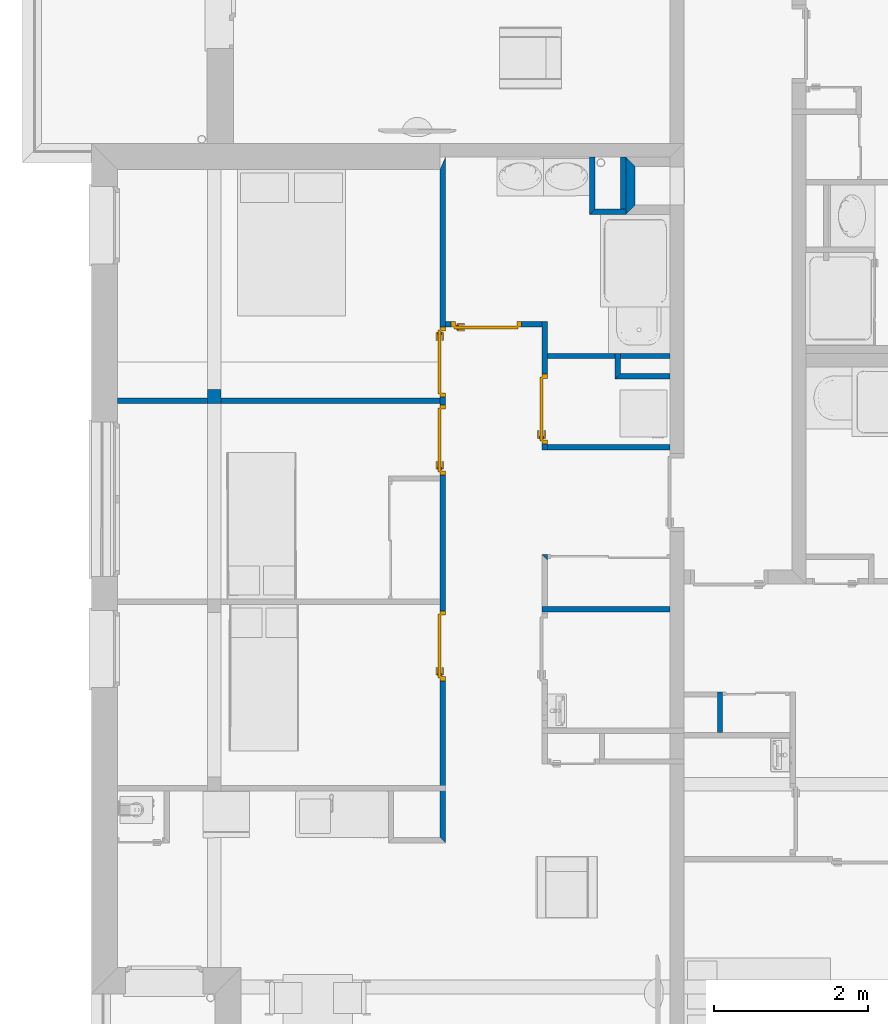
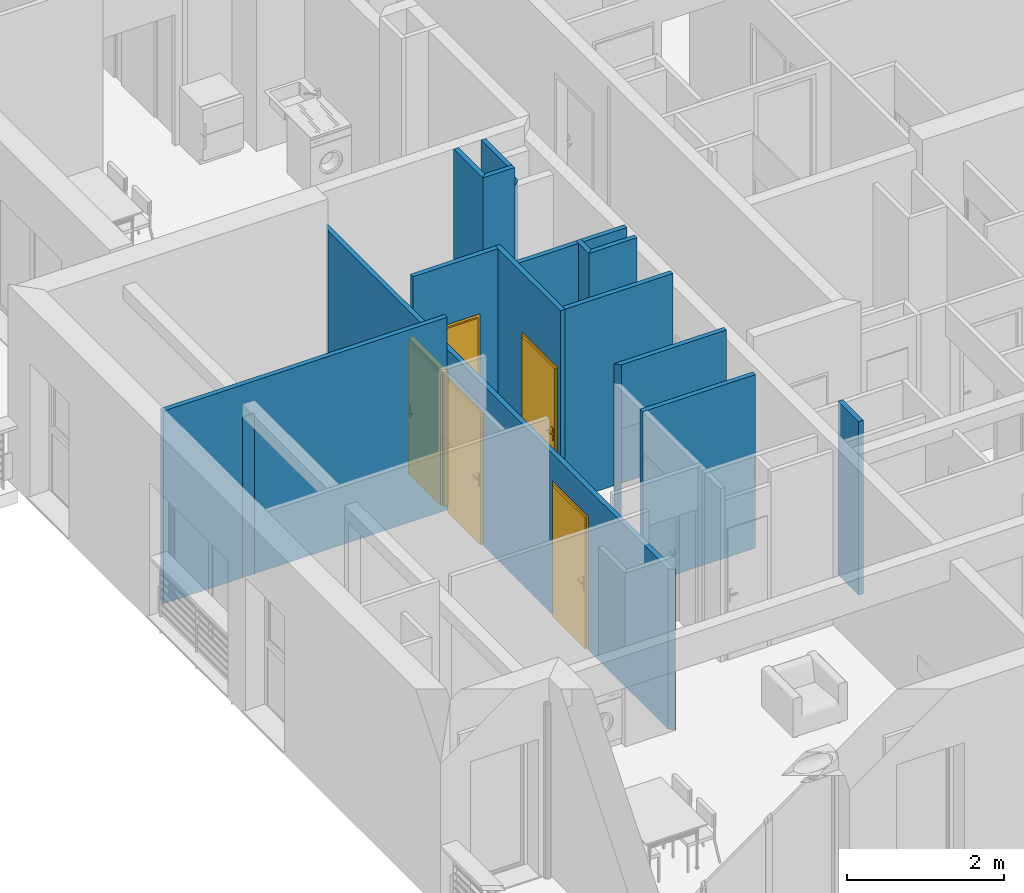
# One storey, part 12 of 165: 16 walls, 5 doors, 6 openings.
"""IFC2X3 building model written with IfcOpenShell, lengths in millimetres."""

from ifc_helpers import new_model, entity, si_unit, converted_unit, derived_unit, money_unit, direction, frame, origin_with_axes, origin_2d_with_axis, place, context, subcontext, project, spatial, polyline, rectangle, outline, extrude, faceted_brep, source, transform, mapped, material, layer, layer_set, layer_usage, type_object, element, fill, save


model = new_model("IFC2X3")

# Units and contexts
model_context = context("Model", 3, precision=0.01, world=origin_with_axes(), true_north=direction((0.0, 1.0)))
body_context = subcontext(model_context, "Body", "Model", "MODEL_VIEW")
ifc_project = project(units=[si_unit("LENGTHUNIT", "METRE", prefix="MILLI"), si_unit("AREAUNIT", "SQUARE_METRE"), si_unit("VOLUMEUNIT", "CUBIC_METRE"), converted_unit("PLANEANGLEUNIT", "DEGREE", entity("IfcPlaneAngleMeasure", 0.0174532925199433), si_unit("PLANEANGLEUNIT", "RADIAN"), dimensions=[0, 0, 0, 0, 0, 0, 0]), money_unit("USD"), converted_unit("TIMEUNIT", "Year", entity("IfcTimeMeasure", 31557600.0), si_unit("TIMEUNIT", "SECOND"), dimensions=[0, 0, 1, 0, 0, 0, 0]), si_unit("MASSUNIT", "GRAM", prefix="KILO"), si_unit("THERMODYNAMICTEMPERATUREUNIT", "DEGREE_CELSIUS"), si_unit("LUMINOUSINTENSITYUNIT", "LUMEN"), si_unit("ENERGYUNIT", "JOULE", prefix="MEGA"), derived_unit("THERMALCONDUCTANCEUNIT", [(si_unit("POWERUNIT", "WATT"), 1), (si_unit("LENGTHUNIT", "METRE"), -1), (si_unit("THERMODYNAMICTEMPERATUREUNIT", "KELVIN"), -1)]), derived_unit("SPECIFICHEATCAPACITYUNIT", [(si_unit("ENERGYUNIT", "JOULE"), 1), (si_unit("MASSUNIT", "GRAM", prefix="KILO"), -1), (si_unit("THERMODYNAMICTEMPERATUREUNIT", "KELVIN"), -1)]), derived_unit("MASSDENSITYUNIT", [(si_unit("MASSUNIT", "GRAM", prefix="KILO"), 1), (si_unit("VOLUMEUNIT", "CUBIC_METRE"), -1)])], contexts=[model_context])

# Site, building, storey
site_placement = place(None, origin_with_axes())
site = spatial("IfcSite", under=ifc_project, at=site_placement, Name="Site", CompositionType="ELEMENT")
building_placement = place(site_placement, origin_with_axes())
building = spatial("IfcBuilding", under=site, at=building_placement, Name="Bâtiment", CompositionType="ELEMENT")
storey_placement = place(building_placement, frame((0.0, 0.0, 8500.0), z_axis=(0.0, 0.0, 1.0), x_axis=(1.0, 0.0, 0.0)))
storey = spatial("IfcBuildingStorey", under=building, at=storey_placement, Name="Etage 2", CompositionType="ELEMENT", Elevation=8500.0)

# Wall, opening, door
ifc_material_1 = material(Name="Hachure solide 268963992")
ifc_layer_1 = layer(ifc_material_1, 70.0, ventilated="UNKNOWN")
ifc_layer_set_1 = layer_set([ifc_layer_1], Name="Cloison 70 0826278243")
ifc_layer_usage_1 = layer_usage(ifc_layer_set_1, "AXIS2", "NEGATIVE", 70.0)
wall_type_1 = type_object("IfcWallType", Name="Cloison 70 0826278243 70", PredefinedType="NOTDEFINED")
wall_1_placement = place(storey_placement, frame((2222472.351167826, -646327.0248240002, 0.0), z_axis=(0.0, 0.0, 1.0), x_axis=(-1.0, 0.0, 0.0)))
wall_1 = element("IfcWallStandardCase", 1, at=wall_1_placement, inside=storey, type_object=wall_type_1, material=ifc_layer_usage_1, Name="Mur-149", context=body_context, shape_type="SweptSolid", body=[
    extrude(outline(polyline([(0.0, 0.0), (1250.000009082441, 0.0), (1250.000009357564, 69.99999999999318), (0.0, 69.99999999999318), (0.0, 0.0)])), origin_with_axes(), (0.0, 0.0, 1.0), 3000.0),
])
opening_1_placement = place(wall_1_placement, frame((721.8802093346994, 0.0, 0.0), z_axis=(0.0, 0.0, 1.0), x_axis=(1.0, 0.0, 0.0)))
opening_1 = element("IfcOpeningElement", 2, at=opening_1_placement, cuts=wall_1, Name="Por-280", context=body_context, shape_type="SweptSolid", body=[
    extrude(rectangle(XDim=910.0, YDim=2080.0, at=origin_2d_with_axis()), frame((0.0, -69.99999999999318, 1039.999999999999), z_axis=(0.0, -1.0, 0.0), x_axis=(-1.0, 0.0, 0.0)), (0.0, 0.0, -1.0), 140.0),
])
door_style = type_object("IfcDoorStyle", Name="Porte_1v", ConstructionType="NOTDEFINED", OperationType="NOTDEFINED", ParameterTakesPrecedence=False, Sizeable=False)
shared_shape_1 = source(origin_with_axes(), body_context, "Body", "Brep", [
    faceted_brep([(-454.9999999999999, 0.0, 0.0), (-454.9999999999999, 0.0, 2080.0), (454.9999999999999, 0.0, 2080.0), (454.9999999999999, 0.0, 0.0), (414.9999999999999, 0.0, 0.0), (414.9999999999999, 0.0, 2040.0), (-414.9999999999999, 0.0, 2040.0), (-414.9999999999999, 0.0, 0.0), (-454.9999999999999, -69.99999999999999, 0.0), (-454.9999999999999, -69.99999999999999, 2080.0), (454.9999999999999, -69.99999999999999, 2080.0), (454.9999999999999, -69.99999999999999, 0.0), (399.9999999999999, -69.99999999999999, 0.0), (399.9999999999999, -15.0, 0.0), (414.9999999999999, -15.0, 0.0), (414.9999999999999, -15.0, 2040.0), (-414.9999999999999, -14.99999999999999, 2040.0), (-414.9999999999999, -14.99999999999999, 0.0), (-399.9999999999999, -14.99999999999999, 0.0), (-399.9999999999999, -69.99999999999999, 0.0), (-399.9999999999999, -69.99999999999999, 2025.0), (399.9999999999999, -69.99999999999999, 2025.0), (399.9999999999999, -15.0, 2025.0), (-399.9999999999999, -14.99999999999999, 2025.0)], [[[0, 1, 2, 3, 4, 5, 6, 7]], [[8, 9, 1, 0]], [[9, 10, 2, 1]], [[10, 11, 3, 2]], [[3, 11, 12, 13, 14, 4]], [[5, 4, 14, 15]], [[6, 5, 15, 16]], [[7, 6, 16, 17]], [[0, 7, 17, 18, 19, 8]], [[19, 20, 21, 12, 11, 10, 9, 8]], [[22, 13, 12, 21]], [[17, 16, 15, 14, 13, 22, 23, 18]], [[18, 23, 20, 19]], [[23, 22, 21, 20]]]),
    faceted_brep([(350.0, -15.0, 900.0), (350.0, -15.0, 1100.0), (389.9999999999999, -15.0, 1100.0), (389.9999999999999, -15.0, 900.0), (350.0, -25.0, 900.0), (350.0, -25.0, 1100.0), (389.9999999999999, -25.0, 1100.0), (389.9999999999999, -25.0, 900.0)], [[[0, 1, 2, 3]], [[0, 4, 5, 1]], [[1, 5, 6, 2]], [[2, 6, 7, 3]], [[3, 7, 4, 0]], [[7, 6, 5, 4]]]),
    faceted_brep([(279.9999999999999, -25.0, 1000.0), (279.9999999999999, -25.0, 1020.0), (379.9999999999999, -25.0, 1020.0), (379.9999999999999, -25.0, 1000.0), (279.9999999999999, -45.0, 1000.0), (279.9999999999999, -45.0, 1020.0), (379.9999999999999, -45.0, 1020.0), (379.9999999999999, -45.0, 1000.0)], [[[0, 1, 2, 3]], [[0, 4, 5, 1]], [[1, 5, 6, 2]], [[2, 6, 7, 3]], [[3, 7, 4, 0]], [[7, 6, 5, 4]]]),
    faceted_brep([(350.0, 34.99999999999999, 900.0), (350.0, 34.99999999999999, 1100.0), (389.9999999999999, 34.99999999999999, 1100.0), (389.9999999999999, 34.99999999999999, 900.0), (350.0, 24.99999999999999, 900.0), (350.0, 24.99999999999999, 1100.0), (389.9999999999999, 24.99999999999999, 1100.0), (389.9999999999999, 24.99999999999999, 900.0)], [[[0, 1, 2, 3]], [[0, 4, 5, 1]], [[1, 5, 6, 2]], [[2, 6, 7, 3]], [[3, 7, 4, 0]], [[7, 6, 5, 4]]]),
    faceted_brep([(279.9999999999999, 54.99999999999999, 1000.0), (279.9999999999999, 54.99999999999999, 1020.0), (379.9999999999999, 54.99999999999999, 1020.0), (379.9999999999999, 54.99999999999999, 1000.0), (279.9999999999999, 34.99999999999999, 1000.0), (279.9999999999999, 34.99999999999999, 1020.0), (379.9999999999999, 34.99999999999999, 1020.0), (379.9999999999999, 34.99999999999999, 1000.0)], [[[0, 1, 2, 3]], [[0, 4, 5, 1]], [[1, 5, 6, 2]], [[2, 6, 7, 3]], [[3, 7, 4, 0]], [[7, 6, 5, 4]]]),
    faceted_brep([(414.9999999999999, 24.99999999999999, 0.0), (414.9999999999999, -15.0, 0.0), (-414.9999999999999, -14.99999999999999, 0.0), (-414.9999999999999, 25.0, 0.0), (414.9999999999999, 24.99999999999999, 2040.0), (414.9999999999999, -15.0, 2040.0), (-414.9999999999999, -14.99999999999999, 2040.0), (-414.9999999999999, 25.0, 2040.0)], [[[0, 1, 2, 3]], [[4, 5, 1, 0]], [[1, 5, 6, 2]], [[3, 2, 6, 7]], [[0, 3, 7, 4]], [[7, 6, 5, 4]]]),
])
door_1_placement = place(opening_1_placement, frame((-415.0000000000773, 0.0, 0.0), z_axis=(0.0, 0.0, 1.0), x_axis=(1.0, 0.0, 0.0)))
door_1 = element("IfcDoor", 3, at=door_1_placement, inside=storey, type_object=door_style, Name="Por-280", OverallHeight=2040.0, OverallWidth=830.0, context=body_context, shape_type="MappedRepresentation", body=[
    mapped(shared_shape_1, transform((414.9999999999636, 69.99999999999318, 0.0))),
])
fill(opening_1, door_1)

# Wall, openings, doors
ifc_layer_usage_2 = layer_usage(ifc_layer_set_1, "AXIS2", "NEGATIVE", 70.0)
wall_2_placement = place(storey_placement, frame((2221152.351167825, -644016.3764661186, 0.0), z_axis=(0.0, 0.0, 1.0), x_axis=(-3.930683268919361e-09, -1.0, 0.0)))
wall_2 = element("IfcWallStandardCase", 4, at=wall_2_placement, inside=storey, type_object=wall_type_1, material=ifc_layer_usage_2, Name="Mur-149", context=body_context, shape_type="SweptSolid", body=[
    extrude(outline(polyline([(340.0000000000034, 0.0), (8996.5834232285, 0.0), (9066.583422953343, 70.00000000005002), (179.9999984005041, 70.00000000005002), (340.0000000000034, 0.0)])), origin_with_axes(), (0.0, 0.0, 1.0), 2500.0),
])
opening_2_placement = place(wall_2_placement, frame((2835.648357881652, 0.0, 0.0), z_axis=(0.0, 0.0, 1.0), x_axis=(1.0, 0.0, 0.0)))
opening_2 = element("IfcOpeningElement", 5, at=opening_2_placement, cuts=wall_2, Name="Por-278", context=body_context, shape_type="SweptSolid", body=[
    extrude(rectangle(XDim=910.0, YDim=2080.0, at=origin_2d_with_axis()), frame((-2.751505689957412e-07, 70.00000000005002, 1039.999999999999), z_axis=(-3.930682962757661e-09, 1.0, 0.0), x_axis=(1.0, 3.930682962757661e-09, 0.0)), (0.0, 0.0, -1.0), 140.0),
])
opening_3_placement = place(wall_2_placement, frame((6513.65574901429, 1.13686837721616e-10, 0.0), z_axis=(0.0, 0.0, 1.0), x_axis=(1.0, 0.0, 0.0)))
opening_3 = element("IfcOpeningElement", 6, at=opening_3_placement, cuts=wall_2, Name="Por-281", context=body_context, shape_type="SweptSolid", body=[
    extrude(rectangle(XDim=910.0, YDim=2080.0, at=origin_2d_with_axis()), frame((-2.751505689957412e-07, 70.00000000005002, 1039.999999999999), z_axis=(3.930682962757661e-09, -1.0, 0.0), x_axis=(-1.0, -3.930682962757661e-09, 0.0)), (0.0, 0.0, 1.0), 140.0),
])
opening_4_placement = place(wall_2_placement, frame((3844.526334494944, 1.13686837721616e-10, 0.0), z_axis=(0.0, 0.0, 1.0), x_axis=(1.0, 0.0, 0.0)))
opening_4 = element("IfcOpeningElement", 7, at=opening_4_placement, cuts=wall_2, Name="Por-279", context=body_context, shape_type="SweptSolid", body=[
    extrude(rectangle(XDim=910.0, YDim=2080.0, at=origin_2d_with_axis()), frame((-2.751505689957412e-07, 70.00000000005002, 1039.999999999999), z_axis=(3.930682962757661e-09, -1.0, 0.0), x_axis=(-1.0, -3.930682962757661e-09, 0.0)), (0.0, 0.0, 1.0), 140.0),
])
shared_shape_2 = source(origin_with_axes(), body_context, "Body", "Brep", [
    faceted_brep([(454.9999999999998, 0.0, 0.0), (414.9999999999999, 0.0, 0.0), (414.9999999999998, 0.0, 2040.0), (-414.9999999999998, 0.0, 2040.0), (-414.9999999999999, 0.0, 0.0), (-454.9999999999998, 0.0, 0.0), (-454.9999999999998, 0.0, 2080.0), (454.9999999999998, 0.0, 2080.0), (454.9999999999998, -69.99999999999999, 0.0), (399.9999999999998, -69.99999999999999, 0.0), (399.9999999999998, -15.0, 0.0), (414.9999999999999, -15.0, 0.0), (414.9999999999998, -15.0, 2040.0), (-414.9999999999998, -15.0, 2040.0), (-414.9999999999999, -15.0, 0.0), (-399.9999999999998, -15.0, 0.0), (-399.9999999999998, -69.99999999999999, 0.0), (-454.9999999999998, -69.99999999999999, 0.0), (-454.9999999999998, -69.99999999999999, 2080.0), (454.9999999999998, -69.99999999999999, 2080.0), (-399.9999999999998, -69.99999999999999, 2025.0), (399.9999999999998, -69.99999999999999, 2025.0), (399.9999999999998, -15.0, 2025.0), (-399.9999999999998, -15.0, 2025.0)], [[[0, 1, 2, 3, 4, 5, 6, 7]], [[0, 8, 9, 10, 11, 1]], [[1, 11, 12, 2]], [[2, 12, 13, 3]], [[3, 13, 14, 4]], [[5, 4, 14, 15, 16, 17]], [[18, 6, 5, 17]], [[19, 7, 6, 18]], [[8, 0, 7, 19]], [[9, 8, 19, 18, 17, 16, 20, 21]], [[10, 9, 21, 22]], [[11, 10, 22, 23, 15, 14, 13, 12]], [[23, 20, 16, 15]], [[22, 21, 20, 23]]]),
    faceted_brep([(-349.9999999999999, -15.0, 900.0), (-389.9999999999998, -15.0, 900.0), (-389.9999999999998, -15.0, 1100.0), (-349.9999999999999, -15.0, 1100.0), (-349.9999999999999, -24.99999999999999, 900.0), (-389.9999999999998, -24.99999999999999, 900.0), (-389.9999999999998, -24.99999999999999, 1100.0), (-349.9999999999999, -24.99999999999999, 1100.0)], [[[0, 1, 2, 3]], [[1, 0, 4, 5]], [[2, 1, 5, 6]], [[3, 2, 6, 7]], [[0, 3, 7, 4]], [[5, 4, 7, 6]]]),
    faceted_brep([(-279.9999999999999, -24.99999999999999, 1000.0), (-379.9999999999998, -24.99999999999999, 1000.0), (-379.9999999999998, -24.99999999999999, 1020.0), (-279.9999999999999, -24.99999999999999, 1020.0), (-279.9999999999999, -44.99999999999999, 1000.0), (-379.9999999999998, -44.99999999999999, 1000.0), (-379.9999999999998, -44.99999999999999, 1020.0), (-279.9999999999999, -44.99999999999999, 1020.0)], [[[0, 1, 2, 3]], [[1, 0, 4, 5]], [[2, 1, 5, 6]], [[3, 2, 6, 7]], [[0, 3, 7, 4]], [[5, 4, 7, 6]]]),
    faceted_brep([(-349.9999999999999, 34.99999999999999, 900.0), (-389.9999999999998, 34.99999999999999, 900.0), (-389.9999999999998, 34.99999999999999, 1100.0), (-349.9999999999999, 34.99999999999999, 1100.0), (-349.9999999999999, 24.99999999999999, 900.0), (-389.9999999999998, 24.99999999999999, 900.0), (-389.9999999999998, 24.99999999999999, 1100.0), (-349.9999999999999, 24.99999999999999, 1100.0)], [[[0, 1, 2, 3]], [[1, 0, 4, 5]], [[2, 1, 5, 6]], [[3, 2, 6, 7]], [[0, 3, 7, 4]], [[5, 4, 7, 6]]]),
    faceted_brep([(-279.9999999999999, 54.99999999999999, 1000.0), (-379.9999999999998, 54.99999999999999, 1000.0), (-379.9999999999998, 54.99999999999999, 1020.0), (-279.9999999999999, 54.99999999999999, 1020.0), (-279.9999999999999, 34.99999999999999, 1000.0), (-379.9999999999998, 34.99999999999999, 1000.0), (-379.9999999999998, 34.99999999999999, 1020.0), (-279.9999999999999, 34.99999999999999, 1020.0)], [[[0, 1, 2, 3]], [[1, 0, 4, 5]], [[2, 1, 5, 6]], [[3, 2, 6, 7]], [[0, 3, 7, 4]], [[5, 4, 7, 6]]]),
    faceted_brep([(-414.9999999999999, 24.99999999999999, 0.0), (414.9999999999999, 24.99999999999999, 0.0), (414.9999999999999, -15.0, 0.0), (-414.9999999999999, -15.0, 0.0), (-414.9999999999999, 24.99999999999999, 2040.0), (414.9999999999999, 24.99999999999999, 2040.0), (414.9999999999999, -15.0, 2040.0), (-414.9999999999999, -15.0, 2040.0)], [[[0, 1, 2, 3]], [[0, 4, 5, 1]], [[1, 5, 6, 2]], [[3, 2, 6, 7]], [[4, 0, 3, 7]], [[5, 4, 7, 6]]]),
])
door_2_placement = place(opening_3_placement, frame((414.9999999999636, 3.410605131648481e-10, 0.0), z_axis=(0.0, 0.0, 1.0), x_axis=(-1.0, 0.0, 0.0)))
door_2 = element("IfcDoor", 8, at=door_2_placement, inside=storey, type_object=door_style, Name="Por-281", OverallHeight=2040.0, OverallWidth=830.0, context=body_context, shape_type="MappedRepresentation", body=[
    mapped(shared_shape_2, transform((415.0000000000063, -2.560295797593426e-05, 0.0))),
])
fill(opening_3, door_2)
shared_shape_3 = source(origin_with_axes(), body_context, "Body", "Brep", [
    faceted_brep([(455.0, 0.0, 0.0), (415.0000000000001, 0.0, 0.0), (415.0000000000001, 0.0, 2040.0), (-415.0000000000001, 0.0, 2040.0), (-415.0000000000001, 0.0, 0.0), (-455.0, 0.0, 0.0), (-455.0, 0.0, 2080.0), (455.0, 0.0, 2080.0), (455.0, -70.0, 0.0), (400.0, -70.0, 0.0), (400.0, -15.0, 0.0), (415.0000000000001, -15.0, 0.0), (415.0000000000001, -15.0, 2040.0), (-415.0000000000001, -15.0, 2040.0), (-415.0000000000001, -15.0, 0.0), (-400.0, -15.0, 0.0), (-400.0, -70.0, 0.0), (-455.0, -70.0, 0.0), (-455.0, -70.0, 2080.0), (455.0, -70.0, 2080.0), (-400.0, -70.0, 2025.0), (400.0, -70.0, 2025.0), (400.0, -15.0, 2025.0), (-400.0, -15.0, 2025.0)], [[[0, 1, 2, 3, 4, 5, 6, 7]], [[0, 8, 9, 10, 11, 1]], [[1, 11, 12, 2]], [[2, 12, 13, 3]], [[3, 13, 14, 4]], [[5, 4, 14, 15, 16, 17]], [[18, 6, 5, 17]], [[19, 7, 6, 18]], [[8, 0, 7, 19]], [[9, 8, 19, 18, 17, 16, 20, 21]], [[10, 9, 21, 22]], [[11, 10, 22, 23, 15, 14, 13, 12]], [[23, 20, 16, 15]], [[22, 21, 20, 23]]]),
    faceted_brep([(-350.0000000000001, -15.0, 900.0), (-390.0, -15.0, 900.0), (-390.0, -15.0, 1100.0), (-350.0000000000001, -15.0, 1100.0), (-350.0000000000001, -25.0, 900.0), (-390.0, -25.0, 900.0), (-390.0, -25.0, 1100.0), (-350.0000000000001, -25.0, 1100.0)], [[[0, 1, 2, 3]], [[1, 0, 4, 5]], [[2, 1, 5, 6]], [[3, 2, 6, 7]], [[0, 3, 7, 4]], [[5, 4, 7, 6]]]),
    faceted_brep([(-280.0, -25.0, 1000.0), (-380.0, -25.0, 1000.0), (-380.0, -25.0, 1020.0), (-280.0, -25.0, 1020.0), (-280.0, -45.0, 1000.0), (-380.0, -45.0, 1000.0), (-380.0, -45.0, 1020.0), (-280.0, -45.0, 1020.0)], [[[0, 1, 2, 3]], [[1, 0, 4, 5]], [[2, 1, 5, 6]], [[3, 2, 6, 7]], [[0, 3, 7, 4]], [[5, 4, 7, 6]]]),
    faceted_brep([(-350.0000000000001, 35.0, 900.0), (-390.0, 35.0, 900.0), (-390.0, 35.0, 1100.0), (-350.0000000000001, 35.0, 1100.0), (-350.0000000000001, 25.0, 900.0), (-390.0, 25.0, 900.0), (-390.0, 25.0, 1100.0), (-350.0000000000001, 25.0, 1100.0)], [[[0, 1, 2, 3]], [[1, 0, 4, 5]], [[2, 1, 5, 6]], [[3, 2, 6, 7]], [[0, 3, 7, 4]], [[5, 4, 7, 6]]]),
    faceted_brep([(-280.0, 55.00000000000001, 1000.0), (-380.0, 55.00000000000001, 1000.0), (-380.0, 55.00000000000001, 1020.0), (-280.0, 55.00000000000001, 1020.0), (-280.0, 35.0, 1000.0), (-380.0, 35.0, 1000.0), (-380.0, 35.0, 1020.0), (-280.0, 35.0, 1020.0)], [[[0, 1, 2, 3]], [[1, 0, 4, 5]], [[2, 1, 5, 6]], [[3, 2, 6, 7]], [[0, 3, 7, 4]], [[5, 4, 7, 6]]]),
    faceted_brep([(-415.0000000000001, 25.0, 0.0), (415.0000000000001, 25.0, 0.0), (415.0000000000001, -15.0, 0.0), (-415.0000000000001, -15.0, 0.0), (-415.0000000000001, 25.0, 2040.0), (415.0000000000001, 25.0, 2040.0), (415.0000000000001, -15.0, 2040.0), (-415.0000000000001, -15.0, 2040.0)], [[[0, 1, 2, 3]], [[0, 4, 5, 1]], [[1, 5, 6, 2]], [[3, 2, 6, 7]], [[4, 0, 3, 7]], [[5, 4, 7, 6]]]),
])
door_3_placement = place(opening_4_placement, frame((414.999999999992, 3.410605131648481e-10, 0.0), z_axis=(0.0, 0.0, 1.0), x_axis=(-1.0, 0.0, 0.0)))
door_3 = element("IfcDoor", 9, at=door_3_placement, inside=storey, type_object=door_style, Name="Por-279", OverallHeight=2040.0, OverallWidth=830.0, context=body_context, shape_type="MappedRepresentation", body=[
    mapped(shared_shape_3, transform((415.0000000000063, -1.511148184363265e-05, 0.0))),
])
fill(opening_4, door_3)
door_4_placement = place(opening_2_placement, frame((415.0000000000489, 0.0, 0.0), z_axis=(0.0, 0.0, 1.0), x_axis=(-1.0, 0.0, 0.0)))
door_4 = element("IfcDoor", 10, at=door_4_placement, inside=storey, type_object=door_style, Name="Por-278", OverallHeight=2040.0, OverallWidth=830.0, context=body_context, shape_type="MappedRepresentation", body=[
    mapped(shared_shape_1, transform((415.0000000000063, -1.114597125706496e-05, 0.0))),
])
fill(opening_2, door_4)

# Walls
ifc_layer_usage_3 = layer_usage(ifc_layer_set_1, "AXIS2", "NEGATIVE", 70.0)
wall_3_placement = place(storey_placement, frame((2223422.784737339, -647071.0529877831, 0.0), z_axis=(0.0, 0.0, 1.0), x_axis=(1.0, 0.0, 0.0)))
element("IfcWallStandardCase", 11, at=wall_3_placement, inside=storey, type_object=wall_type_1, material=ifc_layer_usage_3, Name="Mur-149", context=body_context, shape_type="SweptSolid", body=[
    extrude(outline(polyline([(0.0, 0.0), (709.5336193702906, 0.0), (709.5336193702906, 69.99999999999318), (69.99990925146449, 69.99999999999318), (0.0, 0.0)])), origin_with_axes(), (0.0, 0.0, 1.0), 3000.0),
])
ifc_layer_usage_4 = layer_usage(ifc_layer_set_1, "AXIS2", "POSITIVE", -70.0)
wall_4_placement = place(storey_placement, frame((2223422.784737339, -647071.0529877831, 0.0), z_axis=(0.0, 0.0, 1.0), x_axis=(-1.296408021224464e-06, 0.9999999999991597, 0.0)))
element("IfcWallStandardCase", 12, at=wall_4_placement, inside=storey, type_object=wall_type_1, material=ifc_layer_usage_4, Name="Mur-149", context=body_context, shape_type="SweptSolid", body=[
    extrude(outline(polyline([(69.99990925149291, -69.99999999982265), (332.5967485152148, -69.99999999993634), (332.5967485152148, 0.0), (0.0, 0.0), (69.99990925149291, -69.99999999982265)])), origin_with_axes(), (0.0, 0.0, 1.0), 3000.0),
])
ifc_layer_usage_5 = layer_usage(ifc_layer_set_1, "AXIS2", "POSITIVE", -70.0)
wall_5_placement = place(storey_placement, frame((2222472.350736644, -646738.8568963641, 0.0), z_axis=(0.0, 0.0, 1.0), x_axis=(1.0, 0.0, 0.0)))
element("IfcWallStandardCase", 13, at=wall_5_placement, inside=storey, type_object=wall_type_1, material=ifc_layer_usage_5, Name="Mur-149", context=body_context, shape_type="SweptSolid", body=[
    extrude(outline(polyline([(70.00043118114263, -69.99999999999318), (1659.967620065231, -69.99999999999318), (1659.967620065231, 0.0), (70.00043118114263, 0.0), (70.00043118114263, -69.99999999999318)])), origin_with_axes(), (0.0, 0.0, 1.0), 3000.0),
])
ifc_layer_usage_6 = layer_usage(ifc_layer_set_1, "AXIS2", "NEGATIVE", 70.0)
wall_6_placement = place(storey_placement, frame((2224312.31835671, -647918.5288603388, 0.0), z_axis=(0.0, 0.0, 1.0), x_axis=(-1.0, 0.0, 0.0)))
element("IfcWallStandardCase", 14, at=wall_6_placement, inside=storey, type_object=wall_type_1, material=ifc_layer_usage_6, Name="Mur-149", context=body_context, shape_type="SweptSolid", body=[
    extrude(outline(polyline([(179.99999999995, 0.0), (1769.967188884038, 0.0), (1769.967188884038, 69.99999999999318), (179.99999999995, 69.99999999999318), (179.99999999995, 0.0)])), origin_with_axes(), (0.0, 0.0, 1.0), 3000.0),
])
ifc_layer_usage_7 = layer_usage(ifc_layer_set_1, "AXIS2", "NEGATIVE", 70.0)
wall_7_placement = place(storey_placement, frame((2224814.891377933, -651724.6231453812, 0.0), z_axis=(0.0, 0.0, 1.0), x_axis=(0.0, 1.0, 0.0)))
element("IfcWallStandardCase", 15, at=wall_7_placement, inside=storey, type_object=wall_type_1, material=ifc_layer_usage_7, Name="Mur-149", context=body_context, shape_type="SweptSolid", body=[
    extrude(outline(polyline([(69.99999999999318, 0.0), (599.676907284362, 0.0), (599.676907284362, 70.00000000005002), (69.99999999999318, 70.00000000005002), (69.99999999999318, 0.0)])), origin_with_axes(), (0.0, 0.0, 1.0), 2700.0),
])

# Wall, opening
ifc_layer_usage_8 = layer_usage(ifc_layer_set_1, "AXIS2", "NEGATIVE", 70.0)
wall_8_placement = place(storey_placement, frame((2224092.318310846, -649348.3912270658, 0.0), z_axis=(0.0, 0.0, 1.0), x_axis=(-1.0, 0.0, 0.0)))
wall_8 = element("IfcWallStandardCase", 16, at=wall_8_placement, inside=storey, type_object=wall_type_1, material=ifc_layer_usage_8, Name="Mur-149", context=body_context, shape_type="SweptSolid", body=[
    extrude(outline(polyline([(0.0, 0.0), (1619.967188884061, 0.0), (1549.975956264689, 69.99999999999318), (0.0, 69.99999999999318), (0.0, 0.0)])), origin_with_axes(), (0.0, 0.0, 1.0), 3000.0),
])
opening_5_placement = place(wall_8_placement, frame((754.9835936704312, 0.0, 0.0), z_axis=(0.0, 0.0, 1.0), x_axis=(1.0, 0.0, 0.0)))
element("IfcOpeningElement", 17, at=opening_5_placement, cuts=wall_8, Name="Por-324", context=body_context, shape_type="SweptSolid", body=[
    extrude(rectangle(XDim=1589.967187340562, YDim=2000.0, at=origin_2d_with_axis()), frame((0.0, 0.0, 1000.0), z_axis=(0.0, 1.0, 0.0), x_axis=(1.0, 0.0, 0.0)), (0.0, 0.0, -1.0), 70.0),
    extrude(rectangle(XDim=1589.967187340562, YDim=2000.0, at=origin_2d_with_axis()), frame((0.0, 0.0, 1000.0), z_axis=(0.0, -1.0, 0.0), x_axis=(1.0, 0.0, 0.0)), (0.0, 0.0, -1.0), 70.0),
])

# Wall
ifc_layer_usage_9 = layer_usage(ifc_layer_set_1, "AXIS2", "NEGATIVE", 70.0)
wall_9_placement = place(storey_placement, frame((2221152.351167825, -647320.7866252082, 0.0), z_axis=(0.0, 0.0, 1.0), x_axis=(-1.0, 0.0, 0.0)))
element("IfcWallStandardCase", 18, at=wall_9_placement, inside=storey, type_object=wall_type_1, material=ifc_layer_usage_9, Name="Mur-149", context=body_context, shape_type="SweptSolid", body=[
    extrude(outline(polyline([(1.298860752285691e-05, 0.0), (4178.117824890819, 0.0), (4178.117824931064, 69.99999999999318), (1.326372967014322e-05, 69.99999999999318), (1.298860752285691e-05, 0.0)])), origin_with_axes(), (0.0, 0.0, 1.0), 3000.0),
])

# Wall, opening, door
ifc_layer_usage_10 = layer_usage(ifc_layer_set_1, "AXIS2", "NEGATIVE", 70.0)
wall_10_placement = place(storey_placement, frame((2222472.351167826, -646326.9267341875, 0.0), z_axis=(0.0, 0.0, 1.0), x_axis=(0.0, -1.0, 0.0)))
wall_10 = element("IfcWallStandardCase", 19, at=wall_10_placement, inside=storey, type_object=wall_type_1, material=ifc_layer_usage_10, Name="Mur-149", context=body_context, shape_type="SweptSolid", body=[
    extrude(outline(polyline([(0.0, 0.0), (1661.602126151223, 0.0), (1661.602126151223, 70.00000000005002), (0.0, 70.00000000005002), (0.0, 0.0)])), origin_with_axes(), (0.0, 0.0, 1.0), 3000.0),
])
opening_6_placement = place(wall_10_placement, frame((1135.098015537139, 0.0, 0.0), z_axis=(0.0, 0.0, 1.0), x_axis=(1.0, 0.0, 0.0)))
opening_6 = element("IfcOpeningElement", 20, at=opening_6_placement, cuts=wall_10, Name="Por-284", context=body_context, shape_type="SweptSolid", body=[
    extrude(rectangle(XDim=910.0, YDim=2080.0, at=origin_2d_with_axis()), frame((0.0, 70.00000000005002, 1039.999999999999), z_axis=(0.0, -1.0, 0.0), x_axis=(-1.0, 0.0, 0.0)), (0.0, 0.0, 1.0), 140.0),
])
door_5_placement = place(opening_6_placement, frame((415.0000000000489, 0.0, 0.0), z_axis=(0.0, 0.0, 1.0), x_axis=(-1.0, 0.0, 0.0)))
door_5 = element("IfcDoor", 21, at=door_5_placement, inside=storey, type_object=door_style, Name="Por-284", OverallHeight=2040.0, OverallWidth=830.0, context=body_context, shape_type="MappedRepresentation", body=[
    mapped(shared_shape_2, transform((415.0000000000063, 0.0, 0.0))),
])
fill(opening_6, door_5)

# Walls
ifc_layer_usage_11 = layer_usage(ifc_layer_set_1, "AXIS2", "NEGATIVE", 70.0)
wall_11_placement = place(storey_placement, frame((2224312.31835671, -650018.3846786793, 0.0), z_axis=(0.0, 0.0, 1.0), x_axis=(-0.9999999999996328, 8.570281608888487e-07, 0.0)))
element("IfcWallStandardCase", 22, at=wall_11_placement, inside=storey, type_object=wall_type_1, material=ifc_layer_usage_11, Name="Mur-149", context=body_context, shape_type="SweptSolid", body=[
    extrude(outline(polyline([(179.99999999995, 0.0), (1840.150385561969, 0.0), (1840.150385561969, 70.00000000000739), (179.9999400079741, 69.99999999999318), (179.99999999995, 0.0)])), origin_with_axes(), (0.0, 0.0, 1.0), 2700.0),
])
ifc_layer_usage_12 = layer_usage(ifc_layer_set_1, "AXIS2", "NEGATIVE", 70.0)
wall_12_placement = place(storey_placement, frame((2223091.726875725, -644940.5007987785, 0.0), z_axis=(0.0, 0.0, 1.0), x_axis=(1.0, 0.0, 0.0)))
element("IfcWallStandardCase", 23, at=wall_12_placement, inside=storey, type_object=wall_type_1, material=ifc_layer_usage_12, Name="Mur-149", context=body_context, shape_type="SweptSolid", body=[
    extrude(outline(polyline([(0.0, 0.0), (470.4638415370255, 0.0), (470.4638415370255, 69.99999999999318), (70.00000000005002, 69.99999999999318), (0.0, 0.0)])), origin_with_axes(), (0.0, 0.0, 1.0), 3000.0),
])
ifc_layer_usage_13 = layer_usage(ifc_layer_set_1, "AXIS2", "NEGATIVE", 70.0)
wall_13_placement = place(storey_placement, frame((2223091.726875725, -644016.3764294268, 0.0), z_axis=(0.0, 0.0, 1.0), x_axis=(0.0, -1.0, 0.0)))
element("IfcWallStandardCase", 24, at=wall_13_placement, inside=storey, type_object=wall_type_1, material=ifc_layer_usage_13, Name="Mur-149", context=body_context, shape_type="SweptSolid", body=[
    extrude(outline(polyline([(180.0000000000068, 0.0), (924.1243693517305, 0.0), (854.1243693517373, 70.00000000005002), (179.9999986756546, 70.00000000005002), (180.0000000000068, 0.0)])), origin_with_axes(), (0.0, 0.0, 1.0), 3000.0),
])
ifc_layer_usage_14 = layer_usage(ifc_layer_set_1, "AXIS2", "NEGATIVE", 70.0)
wall_14_placement = place(storey_placement, frame((2223492.612794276, -644016.3764218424, 0.0), z_axis=(0.0, 0.0, 1.0), x_axis=(0.0, -1.0, 0.0)))
element("IfcWallStandardCase", 25, at=wall_14_placement, inside=storey, type_object=wall_type_1, material=ifc_layer_usage_14, Name="Mur-149", context=body_context, shape_type="SweptSolid", body=[
    extrude(outline(polyline([(180.0000000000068, 0.0), (854.124376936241, 0.0), (854.124376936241, 70.00000000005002), (179.9999986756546, 70.00000000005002), (180.0000000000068, 0.0)])), origin_with_axes(), (0.0, 0.0, 1.0), 3000.0),
])
ifc_material_2 = material(Name="AS_EMPTY 272048125")
ifc_layer_2 = layer(ifc_material_2, 20.0, ventilated="UNKNOWN")
ifc_material_3 = material(Name="Isolant styromousse 275581351")
ifc_layer_3 = layer(ifc_material_3, 80.0, ventilated="UNKNOWN")
ifc_layer_4 = layer(ifc_material_2, 20.0, ventilated="UNKNOWN")
ifc_layer_set_2 = layer_set([ifc_layer_2, ifc_layer_3, ifc_layer_4], Name="SAA 120")
ifc_layer_usage_15 = layer_usage(ifc_layer_set_2, "AXIS2", "NEGATIVE", 0.0)
wall_type_2 = type_object("IfcWallType", Name="SAA 120 120", PredefinedType="NOTDEFINED")
wall_15_placement = place(storey_placement, frame((2223561.126354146, -644938.8542053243, 0.0), z_axis=(0.0, 0.0, 1.0), x_axis=(0.0006118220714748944, 0.9999998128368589, 0.0)))
element("IfcWallStandardCase", 26, at=wall_15_placement, inside=storey, type_object=wall_type_2, material=ifc_layer_usage_15, Name="Mur-156", context=body_context, shape_type="SweptSolid", body=[
    extrude(outline(polyline([(120.0734411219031, -119.9999999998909), (622.5513307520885, -120.0000000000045), (742.4779345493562, 0.0), (0.0, 0.0), (120.0734411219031, -119.9999999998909)])), origin_with_axes(), (0.0, 0.0, 1.0), 2690.0),
])
ifc_material_4 = material(Name="Parpaing 312445824")
ifc_layer_5 = layer(ifc_material_4, 180.0, ventilated="UNKNOWN")
ifc_layer_set_3 = layer_set([ifc_layer_5], Name="Beton  18 0836643197")
ifc_layer_usage_16 = layer_usage(ifc_layer_set_3, "AXIS2", "NEGATIVE", 0.0)
wall_type_3 = type_object("IfcWallType", Name="Beton  18 0836643197 180", PredefinedType="NOTDEFINED")
wall_16_placement = place(storey_placement, frame((2218314.233361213, -647390.7866252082, 0.0), z_axis=(0.0, 0.0, 1.0), x_axis=(-1.0, 0.0, 0.0)))
element("IfcWallStandardCase", 27, at=wall_16_placement, inside=storey, type_object=wall_type_3, material=ifc_layer_usage_16, Name="Mur-143", context=body_context, shape_type="SweptSolid", body=[
    extrude(outline(polyline([(0.0, -180.0000000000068), (176.068239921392, -180.0000000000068), (176.068239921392, 0.0), (0.0, 0.0), (0.0, -180.0000000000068)])), origin_with_axes(), (0.0, 0.0, 1.0), 2500.0),
])

save(model, "model.ifc")
